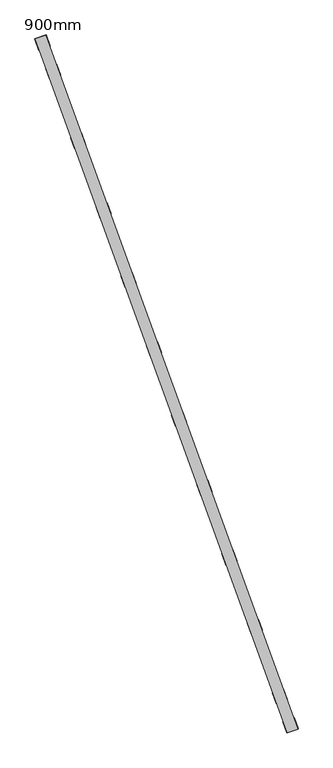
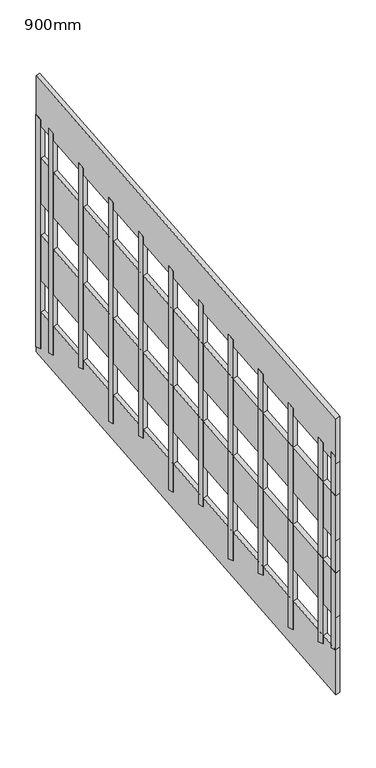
"""IFC4 building model written with IfcOpenShell, lengths in millimetres: railing geometry, 900mm."""

from ifc_helpers import new_model, si_unit, frame, origin, place, context, project, spatial, polyline, outline, extrude, source, transform, mapped, element, save


def railing_900mm_69d3f744(model_context):
    return source(origin(), model_context, "Body", "SweptSolid", [
        extrude(outline(polyline([(-91.76, -148.0), (0.0, 0.0), (1470.756608, 0.0), (1378.996608, -148.0), (-91.76, -148.0)])), frame((19260.1202181, 25443.1743863, 2555.0), z_axis=(0.939692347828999, 0.34202089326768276, 0.0), x_axis=(-0.29068447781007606, 0.7986470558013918, 0.5269396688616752)), (0.0, 0.0, 1.0), 19.0),
        extrude(outline(polyline([(-91.76, -148.0), (0.0, 0.0), (1470.756608, 0.0), (1378.996608, -148.0), (-91.76, -148.0)])), frame((19260.1202181, 25443.1743863, 2255.0), z_axis=(0.939692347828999, 0.3420208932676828, 0.0), x_axis=(-0.29068447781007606, 0.7986470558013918, 0.5269396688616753)), (0.0, 0.0, 1.0), 19.0),
        extrude(outline(polyline([(-91.76, -148.0), (0.0, 0.0), (1470.756608, 0.0), (1378.996608, -148.0), (-91.76, -148.0)])), frame((19260.1202181, 25443.1743863, 1955.0), z_axis=(0.939692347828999, 0.3420208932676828, 0.0), x_axis=(-0.29068447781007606, 0.7986470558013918, 0.5269396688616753)), (0.0, 0.0, 1.0), 19.0),
        extrude(outline(polyline([(-91.76, -148.0), (0.0, 0.0), (1470.756608, 0.0), (1378.996608, -148.0), (-91.76, -148.0)])), frame((19260.1202181, 25443.1743863, 1655.0), z_axis=(0.939692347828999, 0.3420208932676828, 0.0), x_axis=(-0.29068447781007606, 0.7986470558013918, 0.5269396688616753)), (0.0, 0.0, 1.0), 19.0),
        extrude(outline(polyline([(968.25, -20.0), (106.2, -20.0), (93.8, 0.0), (968.25, 0.0), (968.25, -20.0)])), frame((18850.0803523, 26568.2849624, 3243.25), z_axis=(0.9396923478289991, 0.3420208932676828, 0.0), x_axis=(0.0, 0.0, -1.0)), (0.0, 0.0, 1.0), 20.0),
        extrude(outline(polyline([(890.75, -20.0), (106.2, -20.0), (93.8, 0.0), (890.75, 0.0), (890.75, -20.0)])), frame((18892.8329639, 26450.8234189, 3165.75), z_axis=(0.9396923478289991, 0.3420208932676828, 0.0), x_axis=(0.0, 0.0, -1.0)), (0.0, 0.0, 1.0), 20.0),
        extrude(outline(polyline([(968.25, -19.9999999), (106.2, -19.9999999), (93.8, 0.0), (968.25, 0.0), (968.25, -19.9999999)])), frame((18935.5855756, 26333.3618754, 3088.25), z_axis=(0.9396923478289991, 0.3420208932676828, 0.0), x_axis=(0.0, 0.0, -1.0)), (0.0, 0.0, 1.0), 20.0),
        extrude(outline(polyline([(890.75, -20.0000001), (106.2, -20.0000001), (93.8, 0.0), (890.75, 0.0), (890.75, -20.0000001)])), frame((18978.3381872, 26215.900332, 3010.75), z_axis=(0.9396923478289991, 0.3420208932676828, 0.0), x_axis=(0.0, 0.0, -1.0)), (0.0, 0.0, 1.0), 20.0),
        extrude(outline(polyline([(968.25, -20.0000001), (106.2, -20.0000001), (93.8, 0.0), (968.25, 0.0), (968.25, -20.0000001)])), frame((19021.0907989, 26098.4387885, 2933.25), z_axis=(0.9396923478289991, 0.3420208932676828, 0.0), x_axis=(0.0, 0.0, -1.0)), (0.0, 0.0, 1.0), 20.0),
        extrude(outline(polyline([(890.75, -20.0), (106.2, -20.0), (93.8, 0.0), (890.75, 0.0), (890.75, -20.0)])), frame((19063.8434106, 25980.977245, 2855.75), z_axis=(0.9396923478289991, 0.3420208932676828, 0.0), x_axis=(0.0, 0.0, -1.0)), (0.0, 0.0, 1.0), 20.0),
        extrude(outline(polyline([(968.25, -20.0), (106.2, -20.0), (93.8, 0.0), (968.25, 0.0), (968.25, -20.0)])), frame((19106.5960222, 25863.5157015, 2778.25), z_axis=(0.9396923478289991, 0.3420208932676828, 0.0), x_axis=(0.0, 0.0, -1.0)), (0.0, 0.0, 1.0), 20.0),
        extrude(outline(polyline([(890.75, -19.9999999), (106.2, -19.9999999), (93.8, 0.0), (890.75, 0.0), (890.75, -19.9999999)])), frame((19149.3486339, 25746.054158, 2700.75), z_axis=(0.9396923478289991, 0.3420208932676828, 0.0), x_axis=(0.0, 0.0, -1.0)), (0.0, 0.0, 1.0), 20.0),
        extrude(outline(polyline([(968.25, -20.0000001), (106.2, -20.0000001), (93.8, 0.0), (968.25, 0.0), (968.25, -20.0000001)])), frame((19192.1012455, 25628.5926146, 2623.25), z_axis=(0.9396923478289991, 0.3420208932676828, 0.0), x_axis=(0.0, 0.0, -1.0)), (0.0, 0.0, 1.0), 20.0),
        extrude(outline(polyline([(890.75, -20.0000001), (106.2, -20.0000001), (93.8, 0.0), (890.75, 0.0), (890.75, -20.0000001)])), frame((19234.8538572, 25511.1310711, 2545.75), z_axis=(0.9396923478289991, 0.3420208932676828, 0.0), x_axis=(0.0, 0.0, -1.0)), (0.0, 0.0, 1.0), 20.0),
        extrude(outline(polyline([(1000.8, -20.0), (106.2, -20.0), (93.8, 0.0), (1000.8, 0.0), (1000.8, -20.0)])), frame((18832.1242554, 26617.6188107, 3275.8), z_axis=(0.9396923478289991, 0.3420208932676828, 0.0), x_axis=(0.0, 0.0, -1.0)), (0.0, 0.0, 1.0), 20.0),
        extrude(outline(polyline([(858.2, -20.0), (106.2, -20.0), (93.8, 0.0), (858.2, 0.0), (858.2, -20.0)])), frame((19252.8099541, 25461.7972228, 2513.2), z_axis=(0.9396923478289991, 0.3420208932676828, 0.0), x_axis=(0.0, 0.0, -1.0)), (0.0, 0.0, 1.0), 20.0),
    ])


if __name__ == "__main__":
    model = new_model("IFC4")
    model_context = context("Model", 3, world=origin())
    ifc_project = project(units=[si_unit("LENGTHUNIT", "METRE", prefix="MILLI")], contexts=[model_context])
    site = spatial("IfcSite", under=ifc_project)
    building = spatial("IfcBuilding", under=site)
    placement = place(None, origin())
    railing_900mm_shape = railing_900mm_69d3f744(model_context)
    element("IfcRailing", 1, ObjectType="900mm", at=placement, inside=building, context=model_context, shape_type="MappedRepresentation", body=[
        mapped(railing_900mm_shape, transform((0.0, 0.0, 0.0), x_axis=(1.0, 0.0, 0.0), y_axis=(0.0, 1.0, 0.0), z_axis=(0.0, 0.0, 1.0))),
    ])
    save(model, "model.ifc")
